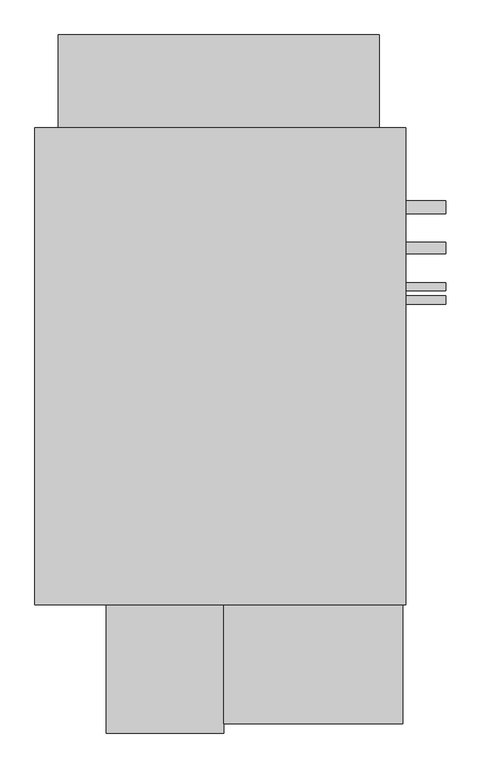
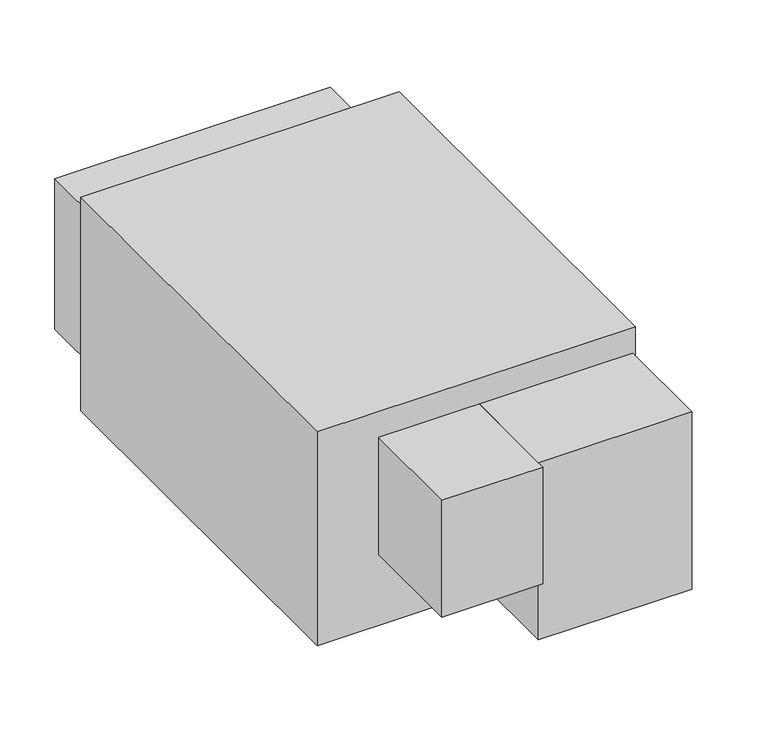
"""IFC4 building model written with IfcOpenShell, lengths in millimetres: proxy geometry, Horizontal_Direct_Drive_Blower_Coil_Unit_-_42DHA_-_CARRIER_-_4-Pipe_RH_2022 : Size 06 - 460v/60Hz/3Ph - 6/2 Coil."""

from ifc_helpers import new_model, si_unit, point, frame, frame_2d, origin, place, context, project, spatial, polyline, circle_curve, trimmed, segment, composite_curve, outline, extrude, source, transform, mapped, element, save


def mechanical_equipment_4b47fb68(model_context):
    return source(origin(), model_context, "Body", "SweptSolid", [
        extrude(outline(polyline([(-355.6, 492.125), (-355.6, -422.275), (-1066.8, -422.275), (-1066.8, 492.125), (-355.6, 492.125)])), frame((0.0, 0.0, -504.8058174), z_axis=(0.0, 0.0, 1.0), x_axis=(1.0, 0.0, 0.0)), (0.0, 0.0, 1.0), 504.8058174),
        extrude(outline(polyline([(-361.95, -650.875), (-704.85, -650.875), (-704.85, -422.275), (-361.95, -422.275), (-361.95, -650.875)])), frame((0.0, 0.0, -479.4058174), z_axis=(0.0, 0.0, 1.0), x_axis=(1.0, 0.0, 0.0)), (0.0, 0.0, 1.0), 419.1),
        extrude(outline(composite_curve([segment(trimmed(circle_curve(frame_2d((339.725, -180.7500418)), 12.7), [point((352.425, -180.7500418))], [point((327.025, -180.7500418))], False, "CARTESIAN"), True, "CONTINUOUS"), segment(trimmed(circle_curve(frame_2d((339.725, -180.7500418)), 12.7), [point((327.025, -180.7500418))], [point((352.425, -180.7500418))], False, "CARTESIAN"), True, "CONTINUOUS")], self_intersect=False)), frame((-355.6, 0.0, 0.0), z_axis=(1.0, 0.0, 0.0), x_axis=(0.0, 1.0, 0.0)), (0.0, 0.0, 1.0), 76.2),
        extrude(outline(composite_curve([segment(trimmed(circle_curve(frame_2d((339.725, -377.8058174)), 12.7), [point((352.425, -377.8058174))], [point((327.025, -377.8058174))], False, "CARTESIAN"), True, "CONTINUOUS"), segment(trimmed(circle_curve(frame_2d((339.725, -377.8058174)), 12.7), [point((327.025, -377.8058174))], [point((352.425, -377.8058174))], False, "CARTESIAN"), True, "CONTINUOUS")], self_intersect=False)), frame((-355.6, 0.0, 0.0), z_axis=(1.0, 0.0, 0.0), x_axis=(0.0, 1.0, 0.0)), (0.0, 0.0, 1.0), 76.2),
        extrude(outline(composite_curve([segment(trimmed(circle_curve(frame_2d((261.7604089, -460.3558174)), 11.1125), [point((272.8729089, -460.3558174))], [point((250.6479089, -460.3558174))], False, "CARTESIAN"), True, "CONTINUOUS"), segment(trimmed(circle_curve(frame_2d((261.7604089, -460.3558174)), 11.1125), [point((250.6479089, -460.3558174))], [point((272.8729089, -460.3558174))], False, "CARTESIAN"), True, "CONTINUOUS")], self_intersect=False)), frame((-355.6, 0.0, 0.0), z_axis=(1.0, 0.0, 0.0), x_axis=(0.0, 1.0, 0.0)), (0.0, 0.0, 1.0), 76.2),
        extrude(outline(composite_curve([segment(trimmed(circle_curve(frame_2d((187.325, -231.7558174)), 7.9375), [point((195.2625, -231.7558174))], [point((179.3875, -231.7558174))], False, "CARTESIAN"), True, "CONTINUOUS"), segment(trimmed(circle_curve(frame_2d((187.325, -231.7558174)), 7.9375), [point((179.3875, -231.7558174))], [point((195.2625, -231.7558174))], False, "CARTESIAN"), True, "CONTINUOUS")], self_intersect=False)), frame((-355.6, 0.0, 0.0), z_axis=(1.0, 0.0, 0.0), x_axis=(0.0, 1.0, 0.0)), (0.0, 0.0, 1.0), 76.2),
        extrude(outline(composite_curve([segment(trimmed(circle_curve(frame_2d((161.925, -327.0058174)), 7.9375), [point((169.8625, -327.0058174))], [point((153.9875, -327.0058174))], False, "CARTESIAN"), True, "CONTINUOUS"), segment(trimmed(circle_curve(frame_2d((161.925, -327.0058174)), 7.9375), [point((153.9875, -327.0058174))], [point((169.8625, -327.0058174))], False, "CARTESIAN"), True, "CONTINUOUS")], self_intersect=False)), frame((-355.6, 0.0, 0.0), z_axis=(1.0, 0.0, 0.0), x_axis=(0.0, 1.0, 0.0)), (0.0, 0.0, 1.0), 76.2),
        extrude(outline(polyline([(-1022.35, 669.925), (-406.4, 669.925), (-406.4, 492.125), (-1022.35, 492.125), (-1022.35, 669.925)])), frame((0.0, 0.0, -434.9558174), z_axis=(0.0, 0.0, 1.0), x_axis=(1.0, 0.0, 0.0)), (0.0, 0.0, 1.0), 355.6),
        extrude(outline(polyline([(-704.85, -668.3375), (-930.275, -668.3375), (-930.275, -422.275), (-704.85, -422.275), (-704.85, -668.3375)])), frame((0.0, 0.0, -336.5308174), z_axis=(0.0, 0.0, 1.0), x_axis=(1.0, 0.0, 0.0)), (0.0, 0.0, 1.0), 276.225),
    ])


if __name__ == "__main__":
    model = new_model("IFC4")
    model_context = context("Model", 3, world=origin())
    ifc_project = project(units=[si_unit("LENGTHUNIT", "METRE", prefix="MILLI")], contexts=[model_context])
    site = spatial("IfcSite", under=ifc_project)
    building = spatial("IfcBuilding", under=site)
    placement = place(None, origin())
    mechanical_equipment_shape = mechanical_equipment_4b47fb68(model_context)
    element("IfcBuildingElementProxy", 1, Name="Horizontal_Direct_Drive_Blower_Coil_Unit_-_42DHA_-_CARRIER_-_4-Pipe_RH_2022 : Size 06 - 460v/60Hz/3Ph - 6/2 Coil", ObjectType="Horizontal_Direct_Drive_Blower_Coil_Unit_-_42DHA_-_CARRIER_-_4-Pipe_RH_2022 : Size 06 - 460v/60Hz/3Ph - 6/2 Coil", at=placement, inside=building, context=model_context, shape_type="MappedRepresentation", body=[
        mapped(mechanical_equipment_shape, transform((0.0, 0.0, 0.0), x_axis=(1.0, 0.0, 0.0), y_axis=(0.0, 1.0, 0.0), z_axis=(0.0, 0.0, 1.0))),
    ])
    save(model, "model.ifc")
